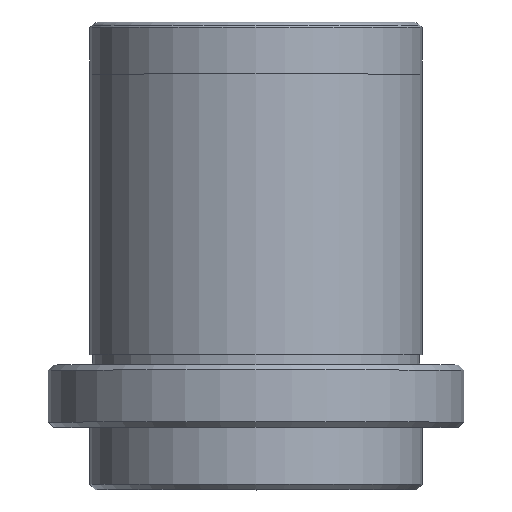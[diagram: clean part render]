
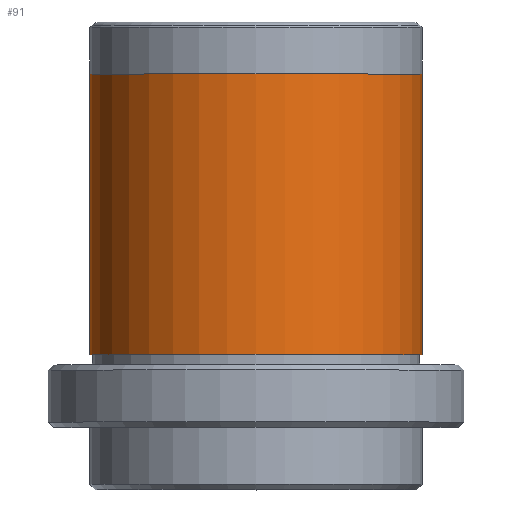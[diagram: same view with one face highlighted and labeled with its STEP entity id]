
A CAD part, top view. The second image highlights one B-rep face of the part: STEP entity #91.
In plain terms, the highlighted cylindrical face has radius 16 mm (diameter 32 mm), a full revolution.
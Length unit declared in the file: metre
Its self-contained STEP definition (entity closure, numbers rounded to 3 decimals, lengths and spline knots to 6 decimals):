
#91 = ADVANCED_FACE( '', ( #140, #141 ), #142, .T. );
#140 = FACE_OUTER_BOUND( '', #197, .T. );
#141 = FACE_OUTER_BOUND( '', #198, .T. );
#142 = CYLINDRICAL_SURFACE( '', #199, 0.016 );
#197 = EDGE_LOOP( '', ( #282 ) );
#198 = EDGE_LOOP( '', ( #283 ) );
#199 = AXIS2_PLACEMENT_3D( '', #284, #285, #286 );
#282 = ORIENTED_EDGE( '', *, *, #322, .T. );
#283 = ORIENTED_EDGE( '', *, *, #321, .F. );
#284 = CARTESIAN_POINT( '', ( 0., 0., 0. ) );
#285 = DIRECTION( '', ( 0., 1., 0. ) );
#286 = DIRECTION( '', ( 0., 0., -1. ) );
#321 = EDGE_CURVE( '', #354, #354, #355, .T. );
#322 = EDGE_CURVE( '', #356, #356, #357, .T. );
#354 = VERTEX_POINT( '', #392 );
#355 = CIRCLE( '', #393, 0.016 );
#356 = VERTEX_POINT( '', #394 );
#357 = CIRCLE( '', #395, 0.016 );
#392 = CARTESIAN_POINT( '', ( 0., 0.001, -0.016 ) );
#393 = AXIS2_PLACEMENT_3D( '', #444, #445, #446 );
#394 = CARTESIAN_POINT( '', ( 0., 0.028, -0.016 ) );
#395 = AXIS2_PLACEMENT_3D( '', #447, #448, #449 );
#444 = CARTESIAN_POINT( '', ( 0., 0.001, 0. ) );
#445 = DIRECTION( '', ( 0., -1., 0. ) );
#446 = DIRECTION( '', ( 0., 0., -1. ) );
#447 = CARTESIAN_POINT( '', ( 0., 0.028, 0. ) );
#448 = DIRECTION( '', ( 0., -1., 0. ) );
#449 = DIRECTION( '', ( 0., 0., -1. ) );
